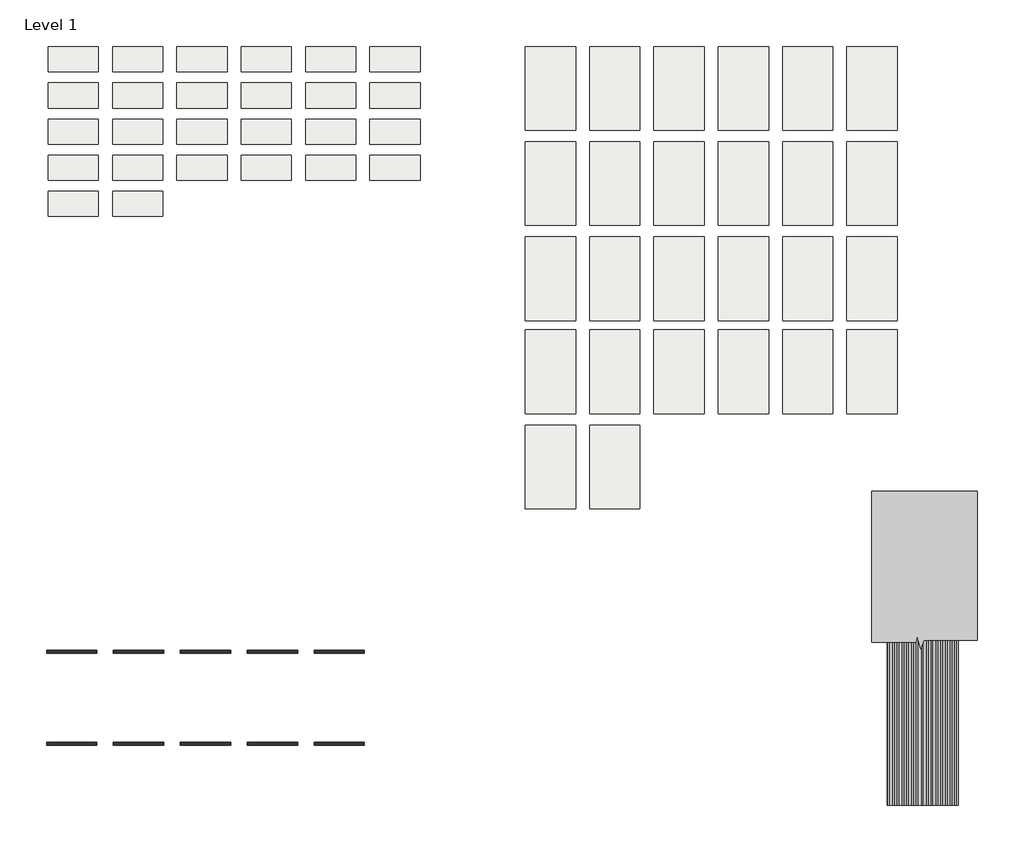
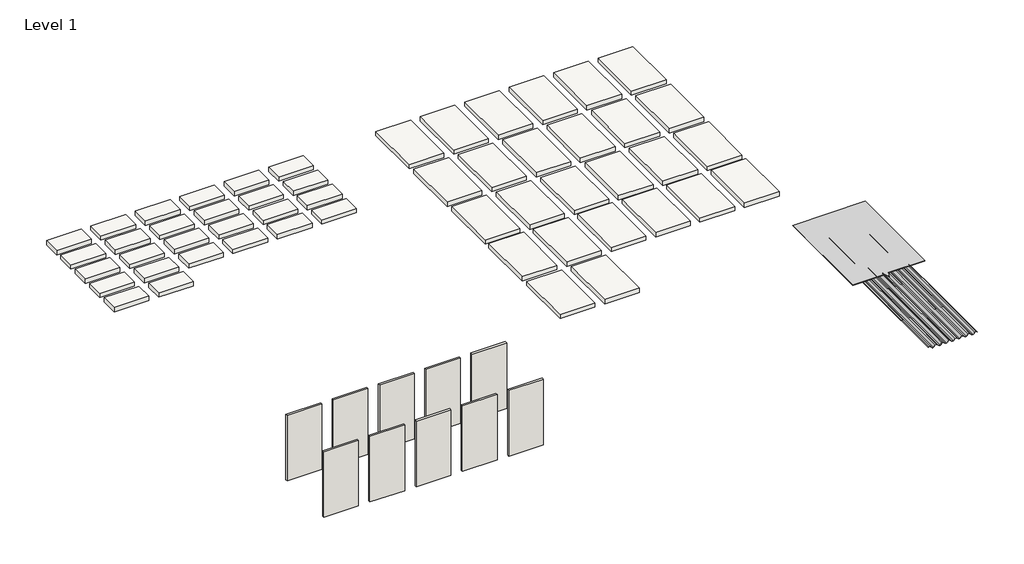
# One storey: 52 slabs, 10 walls, 2 proxies.
"""IFC4 building model written with IfcOpenShell, lengths in millimetres."""

from ifc_helpers import new_model, si_unit, frame, origin, origin_with_axes, place, context, project, spatial, polyline, outline, extrude, transform, mapped, element, save
from components import proxy_a3d225fe, section_mask3_section_mask_6b08dc04

model = new_model("IFC4")

# Units and contexts
model_context = context("Model", 3, world=origin())
ifc_project = project(units=[si_unit("LENGTHUNIT", "METRE", prefix="MILLI")], contexts=[model_context])

# Site, building, storey
site = spatial("IfcSite", under=ifc_project)
building = spatial("IfcBuilding", under=site)
storey = spatial("IfcBuildingStorey", under=building, Name="Level 1", Elevation=0.0)

# Proxies
placement = place(None, origin())
proxy_shape = proxy_a3d225fe(model_context)
element("IfcBuildingElementProxy", 1, Name="Mini-V_Beam_Panel_AEP_Span : 32\" Mini-V-Beam - 18ga", ObjectType="Mini-V_Beam_Panel_AEP_Span : 32\" Mini-V-Beam - 18ga", at=placement, inside=storey, context=model_context, shape_type="MappedRepresentation", body=[
    mapped(proxy_shape, transform((5695.7720775, 1595.4438727, 0.0), x_axis=(1.0, 0.0, 0.0), y_axis=(0.0, 1.0, 0.0), z_axis=(0.0, 0.0, 1.0))),
])
section_mask3_section_mask_shape = section_mask3_section_mask_6b08dc04(model_context)
element("IfcBuildingElementProxy", 2, Name="Section Mask3 : Section Mask", ObjectType="Section Mask3 : Section Mask", at=placement, inside=storey, context=model_context, shape_type="MappedRepresentation", body=[
    mapped(section_mask3_section_mask_shape, transform((-2510.479376, -355.518818, 0.0), x_axis=(1.0, 0.0, 0.0), y_axis=(0.0, 1.0, 0.0), z_axis=(0.0, 0.0, 1.0))),
])

# Slabs
element("IfcSlab", 3, ObjectType="AEP Span Material Sample", at=placement, inside=storey, context=model_context, shape_type="SweptSolid", body=[
    extrude(outline(polyline([(-4307.8660775, 7199.3976846), (-4917.4660775, 7199.3976846), (-4917.4660775, 7504.1976846), (-4307.8660775, 7504.1976846), (-4307.8660775, 7199.3976846)])), frame((0.0, 0.0, -79.375), z_axis=(0.0, 0.0, 1.0), x_axis=(1.0, 0.0, 0.0)), (0.0, 0.0, 1.0), 79.375),
])
element("IfcSlab", 4, ObjectType="AEP Span Material Sample", at=placement, inside=storey, context=model_context, shape_type="SweptSolid", body=[
    extrude(outline(polyline([(-3526.8160775, 7199.3976846), (-4136.4160775, 7199.3976846), (-4136.4160775, 7504.1976846), (-3526.8160775, 7504.1976846), (-3526.8160775, 7199.3976846)])), frame((0.0, 0.0, -79.375), z_axis=(0.0, 0.0, 1.0), x_axis=(1.0, 0.0, 0.0)), (0.0, 0.0, 1.0), 79.375),
])
element("IfcSlab", 5, ObjectType="AEP Span Material Sample", at=placement, inside=storey, context=model_context, shape_type="SweptSolid", body=[
    extrude(outline(polyline([(-2745.7660775, 7199.3976846), (-3355.3660775, 7199.3976846), (-3355.3660775, 7504.1976846), (-2745.7660775, 7504.1976846), (-2745.7660775, 7199.3976846)])), frame((0.0, 0.0, -79.375), z_axis=(0.0, 0.0, 1.0), x_axis=(1.0, 0.0, 0.0)), (0.0, 0.0, 1.0), 79.375),
])
element("IfcSlab", 6, ObjectType="AEP Span Material Sample", at=placement, inside=storey, context=model_context, shape_type="SweptSolid", body=[
    extrude(outline(polyline([(-1964.7160775, 7199.3976846), (-2574.3160775, 7199.3976846), (-2574.3160775, 7504.1976846), (-1964.7160775, 7504.1976846), (-1964.7160775, 7199.3976846)])), frame((0.0, 0.0, -79.375), z_axis=(0.0, 0.0, 1.0), x_axis=(1.0, 0.0, 0.0)), (0.0, 0.0, 1.0), 79.375),
])
element("IfcSlab", 7, ObjectType="AEP Span Material Sample", at=placement, inside=storey, context=model_context, shape_type="SweptSolid", body=[
    extrude(outline(polyline([(-1183.6660775, 7199.3976846), (-1793.2660775, 7199.3976846), (-1793.2660775, 7504.1976846), (-1183.6660775, 7504.1976846), (-1183.6660775, 7199.3976846)])), frame((0.0, 0.0, -79.375), z_axis=(0.0, 0.0, 1.0), x_axis=(1.0, 0.0, 0.0)), (0.0, 0.0, 1.0), 79.375),
])
element("IfcSlab", 8, ObjectType="AEP Span Material Sample", at=placement, inside=storey, context=model_context, shape_type="SweptSolid", body=[
    extrude(outline(polyline([(-402.6160775, 7199.3976846), (-1012.2160775, 7199.3976846), (-1012.2160775, 7504.1976846), (-402.6160775, 7504.1976846), (-402.6160775, 7199.3976846)])), frame((0.0, 0.0, -79.375), z_axis=(0.0, 0.0, 1.0), x_axis=(1.0, 0.0, 0.0)), (0.0, 0.0, 1.0), 79.375),
])
element("IfcSlab", 9, ObjectType="AEP Span Material Sample", at=placement, inside=storey, context=model_context, shape_type="SweptSolid", body=[
    extrude(outline(polyline([(-4307.8660775, 6761.2476846), (-4917.4660775, 6761.2476846), (-4917.4660775, 7066.0476846), (-4307.8660775, 7066.0476846), (-4307.8660775, 6761.2476846)])), frame((0.0, 0.0, -79.375), z_axis=(0.0, 0.0, 1.0), x_axis=(1.0, 0.0, 0.0)), (0.0, 0.0, 1.0), 79.375),
])
element("IfcSlab", 10, ObjectType="AEP Span Material Sample", at=placement, inside=storey, context=model_context, shape_type="SweptSolid", body=[
    extrude(outline(polyline([(-3526.8160775, 6761.2476846), (-4136.4160775, 6761.2476846), (-4136.4160775, 7066.0476846), (-3526.8160775, 7066.0476846), (-3526.8160775, 6761.2476846)])), frame((0.0, 0.0, -79.375), z_axis=(0.0, 0.0, 1.0), x_axis=(1.0, 0.0, 0.0)), (0.0, 0.0, 1.0), 79.375),
])
element("IfcSlab", 11, ObjectType="AEP Span Material Sample", at=placement, inside=storey, context=model_context, shape_type="SweptSolid", body=[
    extrude(outline(polyline([(-2745.7660775, 6761.2476846), (-3355.3660775, 6761.2476846), (-3355.3660775, 7066.0476846), (-2745.7660775, 7066.0476846), (-2745.7660775, 6761.2476846)])), frame((0.0, 0.0, -79.375), z_axis=(0.0, 0.0, 1.0), x_axis=(1.0, 0.0, 0.0)), (0.0, 0.0, 1.0), 79.375),
])
element("IfcSlab", 12, ObjectType="AEP Span Material Sample", at=placement, inside=storey, context=model_context, shape_type="SweptSolid", body=[
    extrude(outline(polyline([(-1964.7160775, 6761.2476846), (-2574.3160775, 6761.2476846), (-2574.3160775, 7066.0476846), (-1964.7160775, 7066.0476846), (-1964.7160775, 6761.2476846)])), frame((0.0, 0.0, -79.375), z_axis=(0.0, 0.0, 1.0), x_axis=(1.0, 0.0, 0.0)), (0.0, 0.0, 1.0), 79.375),
])
element("IfcSlab", 13, ObjectType="AEP Span Material Sample", at=placement, inside=storey, context=model_context, shape_type="SweptSolid", body=[
    extrude(outline(polyline([(-1183.6660775, 6761.2476846), (-1793.2660775, 6761.2476846), (-1793.2660775, 7066.0476846), (-1183.6660775, 7066.0476846), (-1183.6660775, 6761.2476846)])), frame((0.0, 0.0, -79.375), z_axis=(0.0, 0.0, 1.0), x_axis=(1.0, 0.0, 0.0)), (0.0, 0.0, 1.0), 79.375),
])
element("IfcSlab", 14, ObjectType="AEP Span Material Sample", at=placement, inside=storey, context=model_context, shape_type="SweptSolid", body=[
    extrude(outline(polyline([(-402.6160775, 6761.2476846), (-1012.2160775, 6761.2476846), (-1012.2160775, 7066.0476846), (-402.6160775, 7066.0476846), (-402.6160775, 6761.2476846)])), frame((0.0, 0.0, -79.375), z_axis=(0.0, 0.0, 1.0), x_axis=(1.0, 0.0, 0.0)), (0.0, 0.0, 1.0), 79.375),
])
element("IfcSlab", 15, ObjectType="AEP Span Material Sample", at=placement, inside=storey, context=model_context, shape_type="SweptSolid", body=[
    extrude(outline(polyline([(-4307.8660775, 6323.0976846), (-4917.4660775, 6323.0976846), (-4917.4660775, 6627.8976846), (-4307.8660775, 6627.8976846), (-4307.8660775, 6323.0976846)])), frame((0.0, 0.0, -79.375), z_axis=(0.0, 0.0, 1.0), x_axis=(1.0, 0.0, 0.0)), (0.0, 0.0, 1.0), 79.375),
])
element("IfcSlab", 16, ObjectType="AEP Span Material Sample", at=placement, inside=storey, context=model_context, shape_type="SweptSolid", body=[
    extrude(outline(polyline([(-3526.8160775, 6323.0976846), (-4136.4160775, 6323.0976846), (-4136.4160775, 6627.8976846), (-3526.8160775, 6627.8976846), (-3526.8160775, 6323.0976846)])), frame((0.0, 0.0, -79.375), z_axis=(0.0, 0.0, 1.0), x_axis=(1.0, 0.0, 0.0)), (0.0, 0.0, 1.0), 79.375),
])
element("IfcSlab", 17, ObjectType="AEP Span Material Sample", at=placement, inside=storey, context=model_context, shape_type="SweptSolid", body=[
    extrude(outline(polyline([(-2745.7660775, 6323.0976846), (-3355.3660775, 6323.0976846), (-3355.3660775, 6627.8976846), (-2745.7660775, 6627.8976846), (-2745.7660775, 6323.0976846)])), frame((0.0, 0.0, -79.375), z_axis=(0.0, 0.0, 1.0), x_axis=(1.0, 0.0, 0.0)), (0.0, 0.0, 1.0), 79.375),
])
element("IfcSlab", 18, ObjectType="AEP Span Material Sample", at=placement, inside=storey, context=model_context, shape_type="SweptSolid", body=[
    extrude(outline(polyline([(-1964.7160775, 6323.0976846), (-2574.3160775, 6323.0976846), (-2574.3160775, 6627.8976846), (-1964.7160775, 6627.8976846), (-1964.7160775, 6323.0976846)])), frame((0.0, 0.0, -79.375), z_axis=(0.0, 0.0, 1.0), x_axis=(1.0, 0.0, 0.0)), (0.0, 0.0, 1.0), 79.375),
])
element("IfcSlab", 19, ObjectType="AEP Span Material Sample", at=placement, inside=storey, context=model_context, shape_type="SweptSolid", body=[
    extrude(outline(polyline([(-1183.6660775, 6323.0976846), (-1793.2660775, 6323.0976846), (-1793.2660775, 6627.8976846), (-1183.6660775, 6627.8976846), (-1183.6660775, 6323.0976846)])), frame((0.0, 0.0, -79.375), z_axis=(0.0, 0.0, 1.0), x_axis=(1.0, 0.0, 0.0)), (0.0, 0.0, 1.0), 79.375),
])
element("IfcSlab", 20, ObjectType="AEP Span Material Sample", at=placement, inside=storey, context=model_context, shape_type="SweptSolid", body=[
    extrude(outline(polyline([(-402.6160775, 6323.0976846), (-1012.2160775, 6323.0976846), (-1012.2160775, 6627.8976846), (-402.6160775, 6627.8976846), (-402.6160775, 6323.0976846)])), frame((0.0, 0.0, -79.375), z_axis=(0.0, 0.0, 1.0), x_axis=(1.0, 0.0, 0.0)), (0.0, 0.0, 1.0), 79.375),
])
element("IfcSlab", 21, ObjectType="AEP Span Material Sample", at=placement, inside=storey, context=model_context, shape_type="SweptSolid", body=[
    extrude(outline(polyline([(-4307.8660775, 5884.9476846), (-4917.4660775, 5884.9476846), (-4917.4660775, 6189.7476846), (-4307.8660775, 6189.7476846), (-4307.8660775, 5884.9476846)])), frame((0.0, 0.0, -79.375), z_axis=(0.0, 0.0, 1.0), x_axis=(1.0, 0.0, 0.0)), (0.0, 0.0, 1.0), 79.375),
])
element("IfcSlab", 22, ObjectType="AEP Span Material Sample", at=placement, inside=storey, context=model_context, shape_type="SweptSolid", body=[
    extrude(outline(polyline([(-3526.8160775, 5884.9476846), (-4136.4160775, 5884.9476846), (-4136.4160775, 6189.7476846), (-3526.8160775, 6189.7476846), (-3526.8160775, 5884.9476846)])), frame((0.0, 0.0, -79.375), z_axis=(0.0, 0.0, 1.0), x_axis=(1.0, 0.0, 0.0)), (0.0, 0.0, 1.0), 79.375),
])
element("IfcSlab", 23, ObjectType="AEP Span Material Sample", at=placement, inside=storey, context=model_context, shape_type="SweptSolid", body=[
    extrude(outline(polyline([(-2745.7660775, 5884.9476846), (-3355.3660775, 5884.9476846), (-3355.3660775, 6189.7476846), (-2745.7660775, 6189.7476846), (-2745.7660775, 5884.9476846)])), frame((0.0, 0.0, -79.375), z_axis=(0.0, 0.0, 1.0), x_axis=(1.0, 0.0, 0.0)), (0.0, 0.0, 1.0), 79.375),
])
element("IfcSlab", 24, ObjectType="AEP Span Material Sample", at=placement, inside=storey, context=model_context, shape_type="SweptSolid", body=[
    extrude(outline(polyline([(-1964.7160775, 5884.9476846), (-2574.3160775, 5884.9476846), (-2574.3160775, 6189.7476846), (-1964.7160775, 6189.7476846), (-1964.7160775, 5884.9476846)])), frame((0.0, 0.0, -79.375), z_axis=(0.0, 0.0, 1.0), x_axis=(1.0, 0.0, 0.0)), (0.0, 0.0, 1.0), 79.375),
])
element("IfcSlab", 25, ObjectType="AEP Span Material Sample", at=placement, inside=storey, context=model_context, shape_type="SweptSolid", body=[
    extrude(outline(polyline([(-1183.6660775, 5884.9476846), (-1793.2660775, 5884.9476846), (-1793.2660775, 6189.7476846), (-1183.6660775, 6189.7476846), (-1183.6660775, 5884.9476846)])), frame((0.0, 0.0, -79.375), z_axis=(0.0, 0.0, 1.0), x_axis=(1.0, 0.0, 0.0)), (0.0, 0.0, 1.0), 79.375),
])
element("IfcSlab", 26, ObjectType="AEP Span Material Sample", at=placement, inside=storey, context=model_context, shape_type="SweptSolid", body=[
    extrude(outline(polyline([(-402.6160775, 5884.9476846), (-1012.2160775, 5884.9476846), (-1012.2160775, 6189.7476846), (-402.6160775, 6189.7476846), (-402.6160775, 5884.9476846)])), frame((0.0, 0.0, -79.375), z_axis=(0.0, 0.0, 1.0), x_axis=(1.0, 0.0, 0.0)), (0.0, 0.0, 1.0), 79.375),
])
element("IfcSlab", 27, ObjectType="AEP Span Material Sample", at=placement, inside=storey, context=model_context, shape_type="SweptSolid", body=[
    extrude(outline(polyline([(-4307.8660775, 5446.7976846), (-4917.4660775, 5446.7976846), (-4917.4660775, 5751.5976846), (-4307.8660775, 5751.5976846), (-4307.8660775, 5446.7976846)])), frame((0.0, 0.0, -79.375), z_axis=(0.0, 0.0, 1.0), x_axis=(1.0, 0.0, 0.0)), (0.0, 0.0, 1.0), 79.375),
])
element("IfcSlab", 28, ObjectType="AEP Span Material Sample", at=placement, inside=storey, context=model_context, shape_type="SweptSolid", body=[
    extrude(outline(polyline([(-3526.8160775, 5446.7976846), (-4136.4160775, 5446.7976846), (-4136.4160775, 5751.5976846), (-3526.8160775, 5751.5976846), (-3526.8160775, 5446.7976846)])), frame((0.0, 0.0, -79.375), z_axis=(0.0, 0.0, 1.0), x_axis=(1.0, 0.0, 0.0)), (0.0, 0.0, 1.0), 79.375),
])
element("IfcSlab", 29, ObjectType="AEP Span Material Sample", at=placement, inside=storey, context=model_context, shape_type="SweptSolid", body=[
    extrude(outline(polyline([(1485.5495194, 6492.0895229), (875.9495194, 6492.0895229), (875.9495194, 7508.0895229), (1485.5495194, 7508.0895229), (1485.5495194, 6492.0895229)])), frame((0.0, 0.0, -79.375), z_axis=(0.0, 0.0, 1.0), x_axis=(1.0, 0.0, 0.0)), (0.0, 0.0, 1.0), 79.375),
])
element("IfcSlab", 30, ObjectType="AEP Span Material Sample", at=placement, inside=storey, context=model_context, shape_type="SweptSolid", body=[
    extrude(outline(polyline([(2266.5995194, 6492.0895229), (1656.9995194, 6492.0895229), (1656.9995194, 7508.0895229), (2266.5995194, 7508.0895229), (2266.5995194, 6492.0895229)])), frame((0.0, 0.0, -79.375), z_axis=(0.0, 0.0, 1.0), x_axis=(1.0, 0.0, 0.0)), (0.0, 0.0, 1.0), 79.375),
])
element("IfcSlab", 31, ObjectType="AEP Span Material Sample", at=placement, inside=storey, context=model_context, shape_type="SweptSolid", body=[
    extrude(outline(polyline([(3047.6495194, 6492.0895229), (2438.0495194, 6492.0895229), (2438.0495194, 7508.0895229), (3047.6495194, 7508.0895229), (3047.6495194, 6492.0895229)])), frame((0.0, 0.0, -79.375), z_axis=(0.0, 0.0, 1.0), x_axis=(1.0, 0.0, 0.0)), (0.0, 0.0, 1.0), 79.375),
])
element("IfcSlab", 32, ObjectType="AEP Span Material Sample", at=placement, inside=storey, context=model_context, shape_type="SweptSolid", body=[
    extrude(outline(polyline([(3828.6995194, 6492.0895229), (3219.0995194, 6492.0895229), (3219.0995194, 7508.0895229), (3828.6995194, 7508.0895229), (3828.6995194, 6492.0895229)])), frame((0.0, 0.0, -79.375), z_axis=(0.0, 0.0, 1.0), x_axis=(1.0, 0.0, 0.0)), (0.0, 0.0, 1.0), 79.375),
])
element("IfcSlab", 33, ObjectType="AEP Span Material Sample", at=placement, inside=storey, context=model_context, shape_type="SweptSolid", body=[
    extrude(outline(polyline([(4609.7495194, 6492.0895229), (4000.1495194, 6492.0895229), (4000.1495194, 7508.0895229), (4609.7495194, 7508.0895229), (4609.7495194, 6492.0895229)])), frame((0.0, 0.0, -79.375), z_axis=(0.0, 0.0, 1.0), x_axis=(1.0, 0.0, 0.0)), (0.0, 0.0, 1.0), 79.375),
])
element("IfcSlab", 34, ObjectType="AEP Span Material Sample", at=placement, inside=storey, context=model_context, shape_type="SweptSolid", body=[
    extrude(outline(polyline([(5390.7995194, 6492.0895229), (4781.1995194, 6492.0895229), (4781.1995194, 7508.0895229), (5390.7995194, 7508.0895229), (5390.7995194, 6492.0895229)])), frame((0.0, 0.0, -79.375), z_axis=(0.0, 0.0, 1.0), x_axis=(1.0, 0.0, 0.0)), (0.0, 0.0, 1.0), 79.375),
])
element("IfcSlab", 35, ObjectType="AEP Span Material Sample", at=placement, inside=storey, context=model_context, shape_type="SweptSolid", body=[
    extrude(outline(polyline([(1485.5495194, 5336.3895229), (875.9495194, 5336.3895229), (875.9495194, 6352.3895229), (1485.5495194, 6352.3895229), (1485.5495194, 5336.3895229)])), frame((0.0, 0.0, -79.375), z_axis=(0.0, 0.0, 1.0), x_axis=(1.0, 0.0, 0.0)), (0.0, 0.0, 1.0), 79.375),
])
element("IfcSlab", 36, ObjectType="AEP Span Material Sample", at=placement, inside=storey, context=model_context, shape_type="SweptSolid", body=[
    extrude(outline(polyline([(2266.5995194, 5336.3895229), (1656.9995194, 5336.3895229), (1656.9995194, 6352.3895229), (2266.5995194, 6352.3895229), (2266.5995194, 5336.3895229)])), frame((0.0, 0.0, -79.375), z_axis=(0.0, 0.0, 1.0), x_axis=(1.0, 0.0, 0.0)), (0.0, 0.0, 1.0), 79.375),
])
element("IfcSlab", 37, ObjectType="AEP Span Material Sample", at=placement, inside=storey, context=model_context, shape_type="SweptSolid", body=[
    extrude(outline(polyline([(3047.6495194, 5336.3895229), (2438.0495194, 5336.3895229), (2438.0495194, 6352.3895229), (3047.6495194, 6352.3895229), (3047.6495194, 5336.3895229)])), frame((0.0, 0.0, -79.375), z_axis=(0.0, 0.0, 1.0), x_axis=(1.0, 0.0, 0.0)), (0.0, 0.0, 1.0), 79.375),
])
element("IfcSlab", 38, ObjectType="AEP Span Material Sample", at=placement, inside=storey, context=model_context, shape_type="SweptSolid", body=[
    extrude(outline(polyline([(3828.6995194, 5336.3895229), (3219.0995194, 5336.3895229), (3219.0995194, 6352.3895229), (3828.6995194, 6352.3895229), (3828.6995194, 5336.3895229)])), frame((0.0, 0.0, -79.375), z_axis=(0.0, 0.0, 1.0), x_axis=(1.0, 0.0, 0.0)), (0.0, 0.0, 1.0), 79.375),
])
element("IfcSlab", 39, ObjectType="AEP Span Material Sample", at=placement, inside=storey, context=model_context, shape_type="SweptSolid", body=[
    extrude(outline(polyline([(4609.7495194, 5336.3895229), (4000.1495194, 5336.3895229), (4000.1495194, 6352.3895229), (4609.7495194, 6352.3895229), (4609.7495194, 5336.3895229)])), frame((0.0, 0.0, -79.375), z_axis=(0.0, 0.0, 1.0), x_axis=(1.0, 0.0, 0.0)), (0.0, 0.0, 1.0), 79.375),
])
element("IfcSlab", 40, ObjectType="AEP Span Material Sample", at=placement, inside=storey, context=model_context, shape_type="SweptSolid", body=[
    extrude(outline(polyline([(5390.7995194, 5336.3895229), (4781.1995194, 5336.3895229), (4781.1995194, 6352.3895229), (5390.7995194, 6352.3895229), (5390.7995194, 5336.3895229)])), frame((0.0, 0.0, -79.375), z_axis=(0.0, 0.0, 1.0), x_axis=(1.0, 0.0, 0.0)), (0.0, 0.0, 1.0), 79.375),
])
element("IfcSlab", 41, ObjectType="AEP Span Material Sample", at=placement, inside=storey, context=model_context, shape_type="SweptSolid", body=[
    extrude(outline(polyline([(1485.5495194, 4180.6895229), (875.9495194, 4180.6895229), (875.9495194, 5196.6895229), (1485.5495194, 5196.6895229), (1485.5495194, 4180.6895229)])), frame((0.0, 0.0, -79.375), z_axis=(0.0, 0.0, 1.0), x_axis=(1.0, 0.0, 0.0)), (0.0, 0.0, 1.0), 79.375),
])
element("IfcSlab", 42, ObjectType="AEP Span Material Sample", at=placement, inside=storey, context=model_context, shape_type="SweptSolid", body=[
    extrude(outline(polyline([(2266.5995194, 4180.6895229), (1656.9995194, 4180.6895229), (1656.9995194, 5196.6895229), (2266.5995194, 5196.6895229), (2266.5995194, 4180.6895229)])), frame((0.0, 0.0, -79.375), z_axis=(0.0, 0.0, 1.0), x_axis=(1.0, 0.0, 0.0)), (0.0, 0.0, 1.0), 79.375),
])
element("IfcSlab", 43, ObjectType="AEP Span Material Sample", at=placement, inside=storey, context=model_context, shape_type="SweptSolid", body=[
    extrude(outline(polyline([(3047.6495194, 4180.6895229), (2438.0495194, 4180.6895229), (2438.0495194, 5196.6895229), (3047.6495194, 5196.6895229), (3047.6495194, 4180.6895229)])), frame((0.0, 0.0, -79.375), z_axis=(0.0, 0.0, 1.0), x_axis=(1.0, 0.0, 0.0)), (0.0, 0.0, 1.0), 79.375),
])
element("IfcSlab", 44, ObjectType="AEP Span Material Sample", at=placement, inside=storey, context=model_context, shape_type="SweptSolid", body=[
    extrude(outline(polyline([(3828.6995194, 4180.6895229), (3219.0995194, 4180.6895229), (3219.0995194, 5196.6895229), (3828.6995194, 5196.6895229), (3828.6995194, 4180.6895229)])), frame((0.0, 0.0, -79.375), z_axis=(0.0, 0.0, 1.0), x_axis=(1.0, 0.0, 0.0)), (0.0, 0.0, 1.0), 79.375),
])
element("IfcSlab", 45, ObjectType="AEP Span Material Sample", at=placement, inside=storey, context=model_context, shape_type="SweptSolid", body=[
    extrude(outline(polyline([(4609.7495194, 4180.6895229), (4000.1495194, 4180.6895229), (4000.1495194, 5196.6895229), (4609.7495194, 5196.6895229), (4609.7495194, 4180.6895229)])), frame((0.0, 0.0, -79.375), z_axis=(0.0, 0.0, 1.0), x_axis=(1.0, 0.0, 0.0)), (0.0, 0.0, 1.0), 79.375),
])
element("IfcSlab", 46, ObjectType="AEP Span Material Sample", at=placement, inside=storey, context=model_context, shape_type="SweptSolid", body=[
    extrude(outline(polyline([(5390.7995194, 4180.6895229), (4781.1995194, 4180.6895229), (4781.1995194, 5196.6895229), (5390.7995194, 5196.6895229), (5390.7995194, 4180.6895229)])), frame((0.0, 0.0, -79.375), z_axis=(0.0, 0.0, 1.0), x_axis=(1.0, 0.0, 0.0)), (0.0, 0.0, 1.0), 79.375),
])
element("IfcSlab", 47, ObjectType="AEP Span Material Sample", at=placement, inside=storey, context=model_context, shape_type="SweptSolid", body=[
    extrude(outline(polyline([(1485.5495194, 3050.3895229), (875.9495194, 3050.3895229), (875.9495194, 4066.3895229), (1485.5495194, 4066.3895229), (1485.5495194, 3050.3895229)])), frame((0.0, 0.0, -79.375), z_axis=(0.0, 0.0, 1.0), x_axis=(1.0, 0.0, 0.0)), (0.0, 0.0, 1.0), 79.375),
])
element("IfcSlab", 48, ObjectType="AEP Span Material Sample", at=placement, inside=storey, context=model_context, shape_type="SweptSolid", body=[
    extrude(outline(polyline([(2266.5995194, 3050.3895229), (1656.9995194, 3050.3895229), (1656.9995194, 4066.3895229), (2266.5995194, 4066.3895229), (2266.5995194, 3050.3895229)])), frame((0.0, 0.0, -79.375), z_axis=(0.0, 0.0, 1.0), x_axis=(1.0, 0.0, 0.0)), (0.0, 0.0, 1.0), 79.375),
])
element("IfcSlab", 49, ObjectType="AEP Span Material Sample", at=placement, inside=storey, context=model_context, shape_type="SweptSolid", body=[
    extrude(outline(polyline([(3047.6495194, 3050.3895229), (2438.0495194, 3050.3895229), (2438.0495194, 4066.3895229), (3047.6495194, 4066.3895229), (3047.6495194, 3050.3895229)])), frame((0.0, 0.0, -79.375), z_axis=(0.0, 0.0, 1.0), x_axis=(1.0, 0.0, 0.0)), (0.0, 0.0, 1.0), 79.375),
])
element("IfcSlab", 50, ObjectType="AEP Span Material Sample", at=placement, inside=storey, context=model_context, shape_type="SweptSolid", body=[
    extrude(outline(polyline([(3828.6995194, 3050.3895229), (3219.0995194, 3050.3895229), (3219.0995194, 4066.3895229), (3828.6995194, 4066.3895229), (3828.6995194, 3050.3895229)])), frame((0.0, 0.0, -79.375), z_axis=(0.0, 0.0, 1.0), x_axis=(1.0, 0.0, 0.0)), (0.0, 0.0, 1.0), 79.375),
])
element("IfcSlab", 51, ObjectType="AEP Span Material Sample", at=placement, inside=storey, context=model_context, shape_type="SweptSolid", body=[
    extrude(outline(polyline([(4609.7495194, 3050.3895229), (4000.1495194, 3050.3895229), (4000.1495194, 4066.3895229), (4609.7495194, 4066.3895229), (4609.7495194, 3050.3895229)])), frame((0.0, 0.0, -79.375), z_axis=(0.0, 0.0, 1.0), x_axis=(1.0, 0.0, 0.0)), (0.0, 0.0, 1.0), 79.375),
])
element("IfcSlab", 52, ObjectType="AEP Span Material Sample", at=placement, inside=storey, context=model_context, shape_type="SweptSolid", body=[
    extrude(outline(polyline([(5390.7995194, 3050.3895229), (4781.1995194, 3050.3895229), (4781.1995194, 4066.3895229), (5390.7995194, 4066.3895229), (5390.7995194, 3050.3895229)])), frame((0.0, 0.0, -79.375), z_axis=(0.0, 0.0, 1.0), x_axis=(1.0, 0.0, 0.0)), (0.0, 0.0, 1.0), 79.375),
])
element("IfcSlab", 53, ObjectType="AEP Span Material Sample", at=placement, inside=storey, context=model_context, shape_type="SweptSolid", body=[
    extrude(outline(polyline([(1485.5495194, 1894.6895229), (875.9495194, 1894.6895229), (875.9495194, 2910.6895229), (1485.5495194, 2910.6895229), (1485.5495194, 1894.6895229)])), frame((0.0, 0.0, -79.375), z_axis=(0.0, 0.0, 1.0), x_axis=(1.0, 0.0, 0.0)), (0.0, 0.0, 1.0), 79.375),
])
element("IfcSlab", 54, ObjectType="AEP Span Material Sample", at=placement, inside=storey, context=model_context, shape_type="SweptSolid", body=[
    extrude(outline(polyline([(2266.5995194, 1894.6895229), (1656.9995194, 1894.6895229), (1656.9995194, 2910.6895229), (2266.5995194, 2910.6895229), (2266.5995194, 1894.6895229)])), frame((0.0, 0.0, -79.375), z_axis=(0.0, 0.0, 1.0), x_axis=(1.0, 0.0, 0.0)), (0.0, 0.0, 1.0), 79.375),
])

# Walls
element("IfcWall", 55, ObjectType="32\" Mini-V Beam Horizontal - 18ga", at=placement, inside=storey, context=model_context, shape_type="SweptSolid", body=[
    extrude(outline(polyline([(-4328.9575546, 142.7897943), (-4938.5575546, 142.7897943), (-4938.5575546, 177.7147943), (-4328.9575546, 177.7147943), (-4328.9575546, 142.7897943)])), origin_with_axes(), (0.0, 0.0, 1.0), 1219.2),
])
element("IfcWall", 56, ObjectType="32\" Mini-V Beam Horizontal - 20ga", at=placement, inside=storey, context=model_context, shape_type="SweptSolid", body=[
    extrude(outline(polyline([(-3516.1575546, 142.7897943), (-4125.7575546, 142.7897943), (-4125.7575546, 177.7147943), (-3516.1575546, 177.7147943), (-3516.1575546, 142.7897943)])), origin_with_axes(), (0.0, 0.0, 1.0), 1219.2),
])
element("IfcWall", 57, ObjectType="32\" Mini-V Beam Horizontal - 22ga", at=placement, inside=storey, context=model_context, shape_type="SweptSolid", body=[
    extrude(outline(polyline([(-2703.3575546, 142.7897943), (-3312.9575546, 142.7897943), (-3312.9575546, 177.7147943), (-2703.3575546, 177.7147943), (-2703.3575546, 142.7897943)])), origin_with_axes(), (0.0, 0.0, 1.0), 1219.2),
])
element("IfcWall", 58, ObjectType="32\" Mini-V Beam Horizontal - 24ga", at=placement, inside=storey, context=model_context, shape_type="SweptSolid", body=[
    extrude(outline(polyline([(-1890.5575546, 142.7897943), (-2500.1575546, 142.7897943), (-2500.1575546, 177.7147943), (-1890.5575546, 177.7147943), (-1890.5575546, 142.7897943)])), origin_with_axes(), (0.0, 0.0, 1.0), 1219.2),
])
element("IfcWall", 59, ObjectType="32\" Mini-V Beam Horizontal - 26ga", at=placement, inside=storey, context=model_context, shape_type="SweptSolid", body=[
    extrude(outline(polyline([(-1077.7575546, 142.7897943), (-1687.3575546, 142.7897943), (-1687.3575546, 177.7147943), (-1077.7575546, 177.7147943), (-1077.7575546, 142.7897943)])), origin_with_axes(), (0.0, 0.0, 1.0), 1219.2),
])
element("IfcWall", 60, ObjectType="32\" Mini-V Beam Vertical - 18ga", at=placement, inside=storey, context=model_context, shape_type="SweptSolid", body=[
    extrude(outline(polyline([(-4328.9575546, -974.8102057), (-4938.5575546, -974.8102057), (-4938.5575546, -939.8852057), (-4328.9575546, -939.8852057), (-4328.9575546, -974.8102057)])), origin_with_axes(), (0.0, 0.0, 1.0), 1219.2),
])
element("IfcWall", 61, ObjectType="32\" Mini-V Beam Vertical - 20ga", at=placement, inside=storey, context=model_context, shape_type="SweptSolid", body=[
    extrude(outline(polyline([(-3516.1575546, -974.8102057), (-4125.7575546, -974.8102057), (-4125.7575546, -939.8852057), (-3516.1575546, -939.8852057), (-3516.1575546, -974.8102057)])), origin_with_axes(), (0.0, 0.0, 1.0), 1219.2),
])
element("IfcWall", 62, ObjectType="32\" Mini-V Beam Vertical - 22ga", at=placement, inside=storey, context=model_context, shape_type="SweptSolid", body=[
    extrude(outline(polyline([(-2703.3575546, -974.8102057), (-3312.9575546, -974.8102057), (-3312.9575546, -939.8852057), (-2703.3575546, -939.8852057), (-2703.3575546, -974.8102057)])), origin_with_axes(), (0.0, 0.0, 1.0), 1219.2),
])
element("IfcWall", 63, ObjectType="32\" Mini-V Beam Vertical - 24ga", at=placement, inside=storey, context=model_context, shape_type="SweptSolid", body=[
    extrude(outline(polyline([(-1890.5575546, -974.8102057), (-2500.1575546, -974.8102057), (-2500.1575546, -939.8852057), (-1890.5575546, -939.8852057), (-1890.5575546, -974.8102057)])), origin_with_axes(), (0.0, 0.0, 1.0), 1219.2),
])
element("IfcWall", 64, ObjectType="32\" Mini-V Beam Vertical - 26ga", at=placement, inside=storey, context=model_context, shape_type="SweptSolid", body=[
    extrude(outline(polyline([(-1077.7575546, -974.8102057), (-1687.3575546, -974.8102057), (-1687.3575546, -939.8852057), (-1077.7575546, -939.8852057), (-1077.7575546, -974.8102057)])), origin_with_axes(), (0.0, 0.0, 1.0), 1219.2),
])

save(model, "model.ifc")
